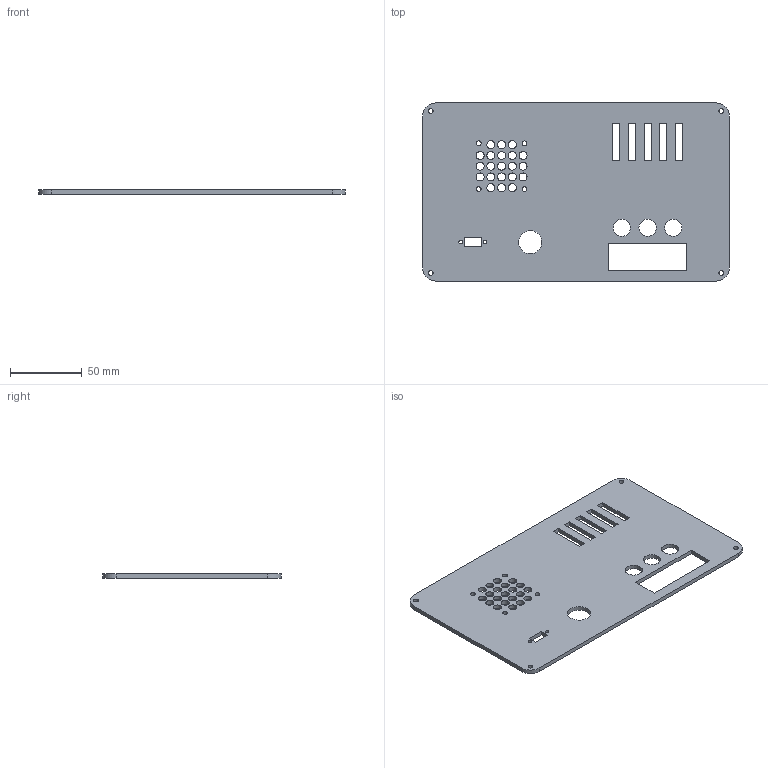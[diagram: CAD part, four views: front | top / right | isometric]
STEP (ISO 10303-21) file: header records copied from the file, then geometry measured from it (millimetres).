
FILE_DESCRIPTION(('Open CASCADE Model'),'2;1');
FILE_NAME('Open CASCADE Shape Model','2026-10-13T14:10:34',('Author'),( 'Open CASCADE'),'Open CASCADE STEP processor 7.7','Open CASCADE 7.7' ,'Unknown');
FILE_SCHEMA(('AUTOMOTIVE_DESIGN { 1 0 10303 214 1 1 1 1 }'));
Length unit declared in the file: millimetre
Products named in the file (1): COMPOUND
Bounding box: 214.4 x 124.4 x 3 mm (x, y, z)
Volume: 71121.9 mm3; surface area: 52787.7 mm2
Topology: 1 solids, 1 shells, 73 faces, 213 edges, 142 vertices
Faces by surface type: cylinder 39, plane 34
Full cylindrical faces by diameter (mm): 2.6 x2, 3.4 x8, 5.6 x21, 12 x3, 16.2 x1
Entity records: 5280 total; most frequent: CARTESIAN_POINT 967, DIRECTION 753, ORIENTED_EDGE 426, PCURVE 426, DEFINITIONAL_REPRESENTATION 426, LINE 371, VECTOR 371, EDGE_CURVE 213
